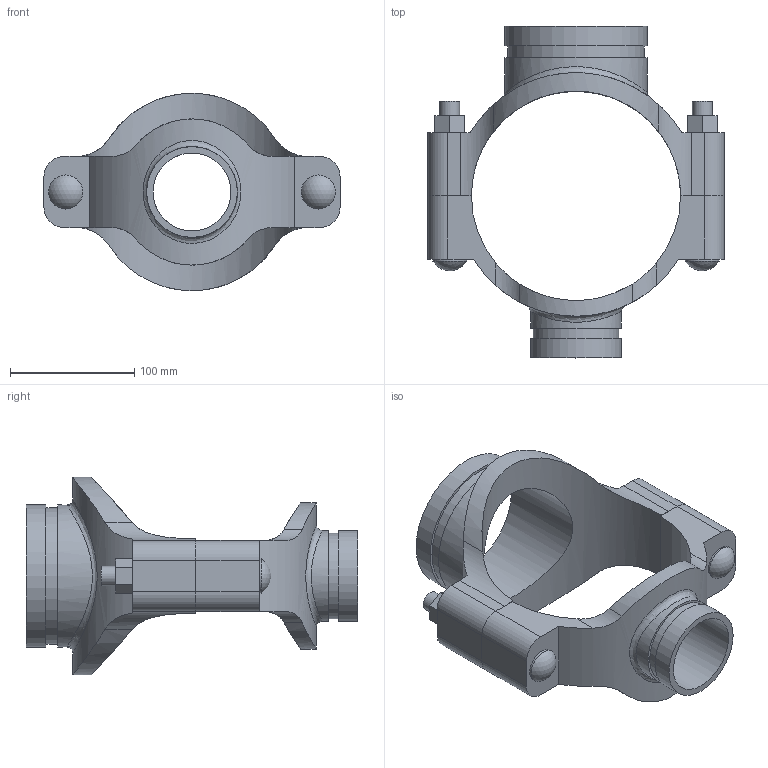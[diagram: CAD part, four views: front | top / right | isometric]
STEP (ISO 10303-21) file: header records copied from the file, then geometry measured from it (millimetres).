
FILE_DESCRIPTION(/* description */ ('VIC MECH-T BRANCH OUTLET CROSS STYLE 920N (GRVD)','CAx-IF Rec.Pracs.---Representation and Presentation of Product Manufacturing Information (PMI)---4.0---2014-10-13'),/* implementation_level */ '2;1');
FILE_NAME(/* name */ 'C:\Users\Vjadhav\AppData\Roaming\Autodesk\ApplicationPlugins\Back Up\Victaulic_IPS_Mechanical-Cross Outlet_Style 920N (OGS)\Victaulic_IPS_Mechanical-Cross Outlet_06.0x04.0x02.5 (150x100x65).stp',/* time_stamp */ '2020-08-06T19:44:59+05:00',/* author */ ('Vjadhav'),/* organization */ ('Victaulic'),/* preprocessor_version */ 'ST-DEVELOPER v17.2',/* originating_system */ 'Autodesk Inventor 2019',/* authorisation */ '');
FILE_SCHEMA (('AP242_MANAGED_MODEL_BASED_3D_ENGINEERING_MIM_LF { 1 0 10303 442 1 1 4 }'));
Length unit declared in the file: inch
Products named in the file (3): 920NG-06.0x04.0x02.5; 920G-06.0x04.0; 920G-06.0x02.5
Assembly tree (2 placements, depth 2):
  920NG-06.0x04.0x02.5
    920G-06.0x04.0
    920G-06.0x02.5
Bounding box: 238.25 x 266.95 x 158.74 mm (x, y, z)
Volume: 928375.3 mm3; surface area: 199709.8 mm2
Topology: 2 solids, 2 shells, 104 faces, 262 edges, 178 vertices
Faces by surface type: plane 54, cylinder 46, sphere 2, bspline 2
Full cylindrical faces by diameter (mm): 15.875 x4, 27.381 x2, 62.738 x1, 69.088 x1, 73.025 x2, 102.394 x1, 110.084 x1, 114.3 x2
Entity records: 4230 total; most frequent: CARTESIAN_POINT 1457, DIRECTION 532, ORIENTED_EDGE 524, EDGE_CURVE 262, AXIS2_PLACEMENT_3D 193, VERTEX_POINT 178, LINE 146, VECTOR 146
